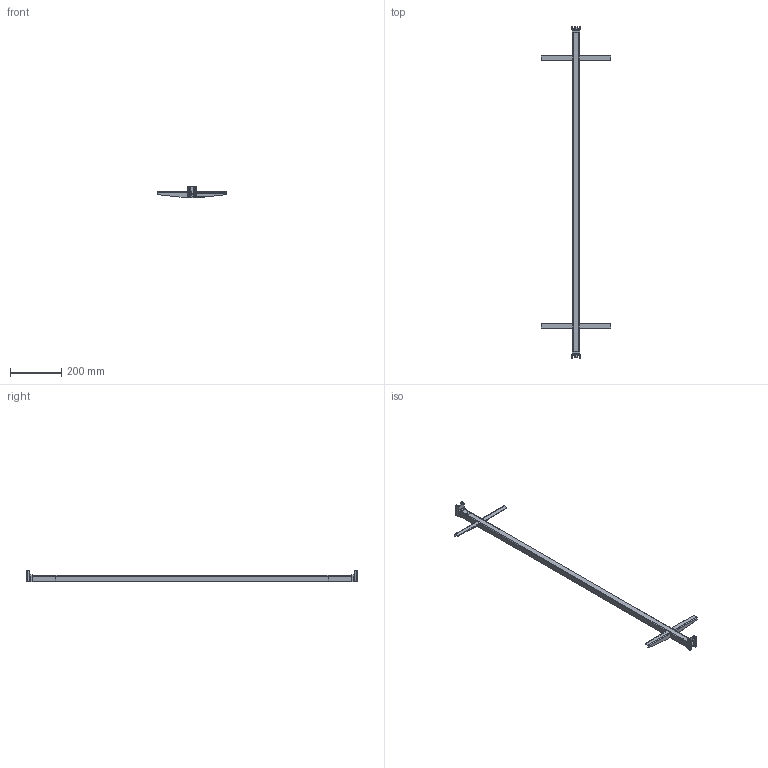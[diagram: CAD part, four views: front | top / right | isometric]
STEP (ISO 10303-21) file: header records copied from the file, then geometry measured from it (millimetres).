
FILE_DESCRIPTION (( 'STEP AP214' ), '1' );
FILE_NAME ('1000233.STEP', '2025-10-01T12:51:22', ( '' ), ( '' ), 'SwSTEP 2.0', 'SolidWorks 2025', '' );
FILE_SCHEMA (( 'AUTOMOTIVE_DESIGN' ));
Length unit declared in the file: millimetre
Products named in the file (1): 1000233
Bounding box: 270 x 1293 x 46 mm (x, y, z)
Volume: 891239.5 mm3; surface area: 181030.1 mm2
Topology: 9 solids, 9 shells, 492 faces, 1329 edges, 855 vertices
Faces by surface type: plane 295, cylinder 177, bspline 20
Entity records: 16003 total; most frequent: CARTESIAN_POINT 3852, ORIENTED_EDGE 2658, DIRECTION 2315, EDGE_CURVE 1329, LINE 879, VECTOR 879, VERTEX_POINT 855, AXIS2_PLACEMENT_3D 718
